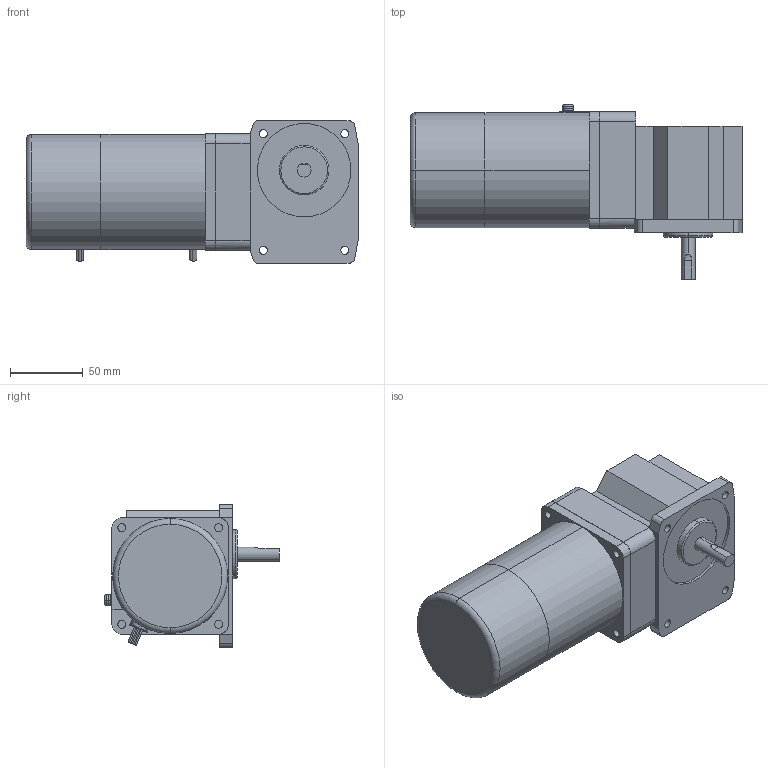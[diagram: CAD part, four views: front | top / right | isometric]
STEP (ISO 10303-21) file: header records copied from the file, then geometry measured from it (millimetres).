
FILE_DESCRIPTION(('starvars output'),'2;1');
FILE_NAME('4RK25GN-CW2ME _ 4GN180RAA.stp','14:09:58 2015/05/11',( 'Thomas Industrial Network Germany GmbH'),( 'Thomas Industrial Network Germany GmbH'),'unknown preprocess','ACIS' ,'unknown authorization');
FILE_SCHEMA(('AUTOMOTIVE_DESIGN_CC2 {UNKNOWN IMPLEMENTATION LEVEL}'));
Length unit declared in the file: millimetre
Products named in the file (1): PRODUCT_ID_2314
Bounding box: 228 x 120 x 98 mm (x, y, z)
Volume: 1194320.3 mm3; surface area: 82100.2 mm2
Topology: 1 solids, 1 shells, 153 faces, 370 edges, 244 vertices
Faces by surface type: cylinder 74, plane 69, torus 10
Entity records: 5519 total; most frequent: CARTESIAN_POINT 838, ORIENTED_EDGE 740, DIRECTION 643, EDGE_CURVE 370, VERTEX_POINT 244, AXIS2_PLACEMENT_3D 225, VECTOR 193, LINE 193
